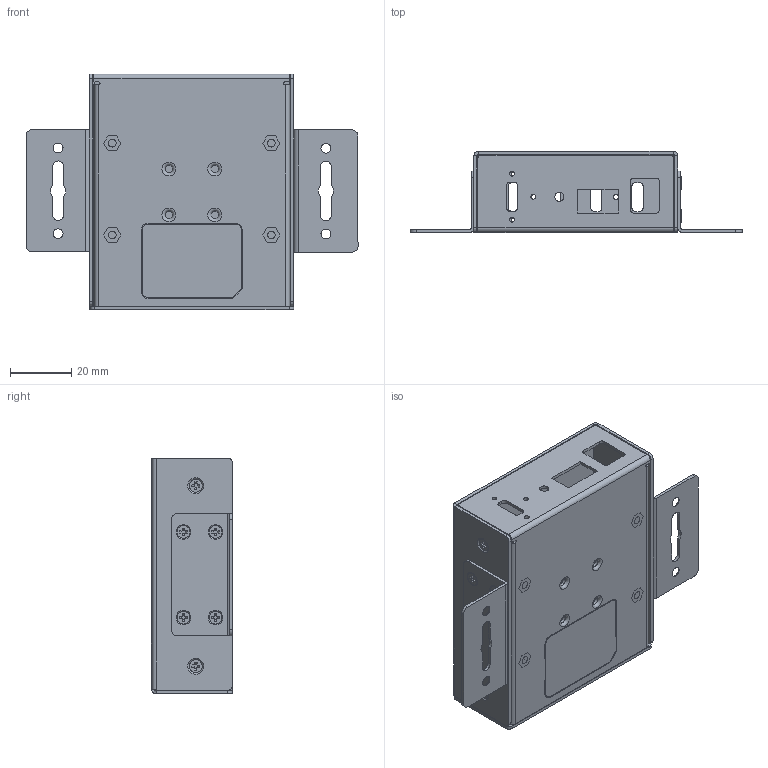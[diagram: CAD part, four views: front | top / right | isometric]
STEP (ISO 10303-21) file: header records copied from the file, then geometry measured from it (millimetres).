
FILE_DESCRIPTION(/* description */ (''),/* implementation_level */ '2;1');
FILE_NAME(/* name */ 'GM-CC4XUH-M_Model3D_JWV2.step',/* time_stamp */ '2025-12-18T16:35:06-05:00',/* author */ (''),/* organization */ (''),/* preprocessor_version */ 'ST-DEVELOPER v20.1',/* originating_system */ 'Autodesk Translation Framework v14.21.0.0',/* authorisation */ '');
FILE_SCHEMA (('AUTOMOTIVE_DESIGN { 1 0 10303 214 3 1 1 }'));
Length unit declared in the file: millimetre
Products named in the file (9): MT2-CC40_ASM; MT2CC40-TOP-BK; MT2CC40-BOT-BK; SCREW-POST; FM3X3_8CCRO-A; GH-UR201_ASM_55_ASM; GH-UR201_ASM_55_ASM_1; HUBPA30-38-F-B; FM-3X3_8CCRO_1
Assembly tree (22 placements, depth 3):
  MT2-CC40_ASM
    MT2CC40-TOP-BK
    MT2CC40-BOT-BK
    SCREW-POST  x4
    FM3X3_8CCRO-A  x4
    GH-UR201_ASM_55_ASM
      HUBPA30-38-F-B
      FM-3X3_8CCRO_1  x4
    GH-UR201_ASM_55_ASM_1
      HUBPA30-38-F-B
      FM-3X3_8CCRO_1  x4
Bounding box: 108.52 x 26.5 x 77 mm (x, y, z)
Volume: 23129.9 mm3; surface area: 49226.6 mm2
Topology: 24 solids, 28 shells, 720 faces, 1786 edges, 1144 vertices
Faces by surface type: plane 376, cylinder 188, bspline 112, cone 36, torus 8
Full cylindrical faces by diameter (mm): 1.2 x4, 1.6 x15, 2.5 x24, 2.6 x16, 3 x5, 3.2 x12, 3.5 x4, 4 x8, 4.1 x4, 4.2 x8, 4.5 x8
Entity records: 18841 total; most frequent: CARTESIAN_POINT 9718, DIRECTION 1879, ORIENTED_EDGE 1766, EDGE_CURVE 884, AXIS2_PLACEMENT_3D 683, VERTEX_POINT 564, LINE 513, VECTOR 513
